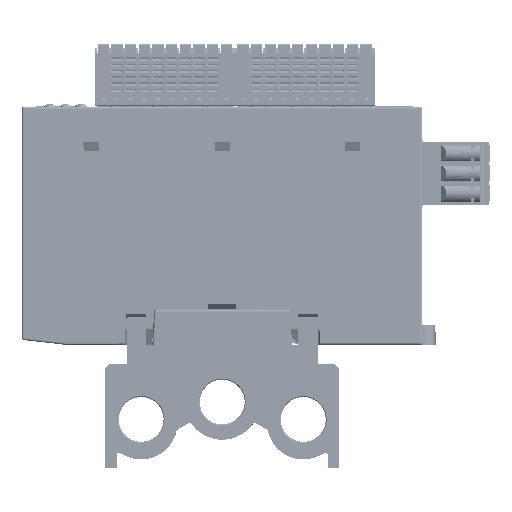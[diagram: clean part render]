
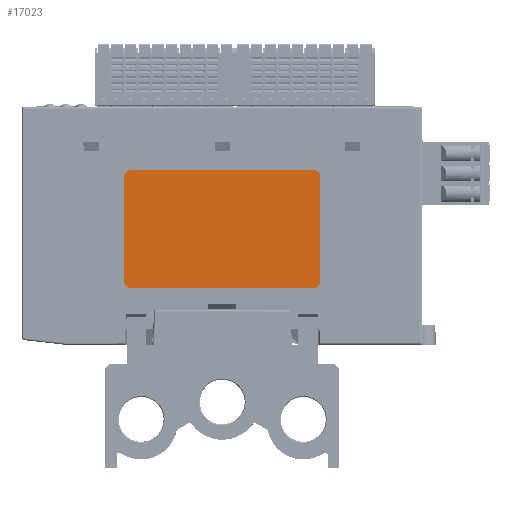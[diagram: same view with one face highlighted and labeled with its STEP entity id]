
A CAD part, front view. The second image highlights one B-rep face of the part: STEP entity #17023.
In plain terms, the highlighted planar face has unit normal (0, -1, 0).
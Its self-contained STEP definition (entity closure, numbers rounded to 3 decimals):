
#7524=FACE_OUTER_BOUND('',#72113,.T.);
#17023=ADVANCED_FACE('',(#7524),#26732,.F.);
#26732=PLANE('',#182866);
#34493=LINE('',#253997,#52693);
#34497=LINE('',#254005,#52697);
#34499=LINE('',#254009,#52699);
#34502=LINE('',#254017,#52702);
#52693=VECTOR('',#200741,1.);
#52697=VECTOR('',#200747,1.);
#52699=VECTOR('',#200751,1.);
#52702=VECTOR('',#200758,1.);
#72113=EDGE_LOOP('',(#85902,#85903,#85904,#85905,#85906,#85907,#85908,#85909));
#85902=ORIENTED_EDGE('',*,*,#153550,.F.);
#85903=ORIENTED_EDGE('',*,*,#153555,.T.);
#85904=ORIENTED_EDGE('',*,*,#153556,.F.);
#85905=ORIENTED_EDGE('',*,*,#153557,.T.);
#85906=ORIENTED_EDGE('',*,*,#153552,.F.);
#85907=ORIENTED_EDGE('',*,*,#153558,.T.);
#85908=ORIENTED_EDGE('',*,*,#153546,.F.);
#85909=ORIENTED_EDGE('',*,*,#153559,.T.);
#136094=VERTEX_POINT('',#253998);
#136095=VERTEX_POINT('',#253999);
#136096=VERTEX_POINT('',#254004);
#136097=VERTEX_POINT('',#254006);
#136098=VERTEX_POINT('',#254010);
#136099=VERTEX_POINT('',#254011);
#136100=VERTEX_POINT('',#254016);
#136101=VERTEX_POINT('',#254018);
#153546=EDGE_CURVE('',#136094,#136095,#34493,.T.);
#153550=EDGE_CURVE('',#136096,#136097,#34497,.T.);
#153552=EDGE_CURVE('',#136098,#136099,#34499,.T.);
#153555=EDGE_CURVE('',#136096,#136100,#177436,.T.);
#153556=EDGE_CURVE('',#136101,#136100,#34502,.T.);
#153557=EDGE_CURVE('',#136101,#136099,#177437,.T.);
#153558=EDGE_CURVE('',#136098,#136095,#177438,.T.);
#153559=EDGE_CURVE('',#136094,#136097,#177439,.T.);
#177436=CIRCLE('',#182862,1.8);
#177437=CIRCLE('',#182863,1.8);
#177438=CIRCLE('',#182864,1.8);
#177439=CIRCLE('',#182865,1.8);
#182862=AXIS2_PLACEMENT_3D('',#254015,#200756,#200757);
#182863=AXIS2_PLACEMENT_3D('',#254019,#200759,#200760);
#182864=AXIS2_PLACEMENT_3D('',#254020,#200761,#200762);
#182865=AXIS2_PLACEMENT_3D('',#254021,#200763,#200764);
#182866=AXIS2_PLACEMENT_3D('',#254022,#200765,#200766);
#200741=DIRECTION('',(0.,0.,-1.));
#200747=DIRECTION('',(1.,0.,0.));
#200751=DIRECTION('',(-1.,0.,0.));
#200756=DIRECTION('',(0.,-1.,0.));
#200757=DIRECTION('',(0.,0.,1.));
#200758=DIRECTION('',(0.,0.,1.));
#200759=DIRECTION('',(0.,-1.,0.));
#200760=DIRECTION('',(0.,0.,-1.));
#200761=DIRECTION('',(0.,-1.,0.));
#200762=DIRECTION('',(0.,0.,-1.));
#200763=DIRECTION('',(0.,-1.,0.));
#200764=DIRECTION('',(0.,0.,-1.));
#200765=DIRECTION('',(0.,1.,0.));
#200766=DIRECTION('',(0.,0.,-1.));
#253997=CARTESIAN_POINT('',(525.15,-402.14,34.634));
#253998=CARTESIAN_POINT('',(525.15,-402.14,47.934));
#253999=CARTESIAN_POINT('',(525.15,-402.14,21.334));
#254004=CARTESIAN_POINT('',(476.75,-402.14,49.734));
#254005=CARTESIAN_POINT('',(500.05,-402.14,49.734));
#254006=CARTESIAN_POINT('',(523.35,-402.14,49.734));
#254009=CARTESIAN_POINT('',(475.05,-402.14,19.534));
#254010=CARTESIAN_POINT('',(523.35,-402.14,19.534));
#254011=CARTESIAN_POINT('',(476.75,-402.14,19.534));
#254015=CARTESIAN_POINT('',(476.75,-402.14,47.934));
#254016=CARTESIAN_POINT('',(474.95,-402.14,47.934));
#254017=CARTESIAN_POINT('',(474.95,-402.14,34.634));
#254018=CARTESIAN_POINT('',(474.95,-402.14,21.334));
#254019=CARTESIAN_POINT('',(476.75,-402.14,21.334));
#254020=CARTESIAN_POINT('',(523.35,-402.14,21.334));
#254021=CARTESIAN_POINT('',(523.35,-402.14,47.934));
#254022=CARTESIAN_POINT('',(500.041,-402.14,23.341));
